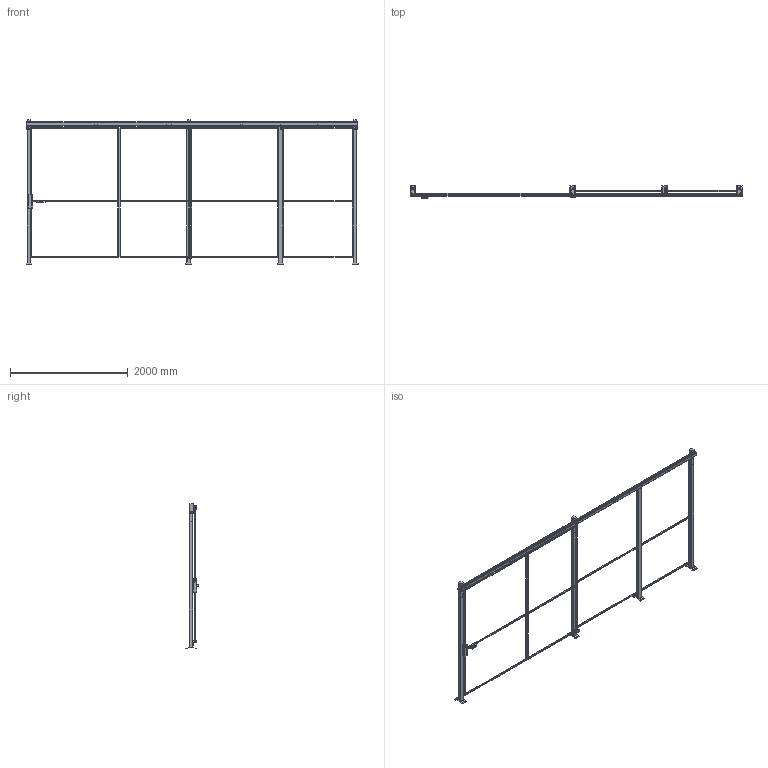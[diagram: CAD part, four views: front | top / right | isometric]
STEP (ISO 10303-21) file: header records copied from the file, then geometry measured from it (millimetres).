
FILE_DESCRIPTION(/* description */ (''),/* implementation_level */ '2;1');
FILE_NAME(/* name */ 'C:\SafeGuarding\ELABORATI\VZOR§POSUVNE_2650x2520_2025-02-13-08-31-37.stp',/* time_stamp */ '2025-02-13T08:31:40+01:00',/* author */ ('admin'),/* organization */ (''),/* preprocessor_version */ 'ST-DEVELOPER v18.1',/* originating_system */ 'AutoCAD Mechanical',/* authorisation */ '');
FILE_SCHEMA (('AUTOMOTIVE_DESIGN { 1 0 10303 214 3 1 1 }'));
Length unit declared in the file: millimetre
Products named in the file (5): Product; R_VFPA.REPE20.12002200; R_VFPA.REPE20.15002200; DATI_PORTA; P_VFMA.ME60SDU.2320
Assembly tree (9 placements, depth 2):
  Product
    P_VFMA.ME60SDU.2320  x4
    R_VFPA.REPE20.12002200  x2
    R_VFPA.REPE20.15002200  x2
    DATI_PORTA
Bounding box: 5630 x 219.95 x 2454 mm (x, y, z)
Volume: 58182352 mm3; surface area: 8320162.5 mm2
Topology: 51 solids, 62 shells, 701 faces, 2368 edges, 2424 vertices
Faces by surface type: plane 651, cylinder 48, sphere 2
Full cylindrical faces by diameter (mm): 11 x16, 12 x2, 15 x4, 40 x4
Entity records: 16997 total; most frequent: CARTESIAN_POINT 3629, DIRECTION 2563, ORIENTED_EDGE 2454, LINE 1319, VECTOR 1319, EDGE_CURVE 1276, VERTEX_POINT 892, AXIS2_PLACEMENT_3D 622
